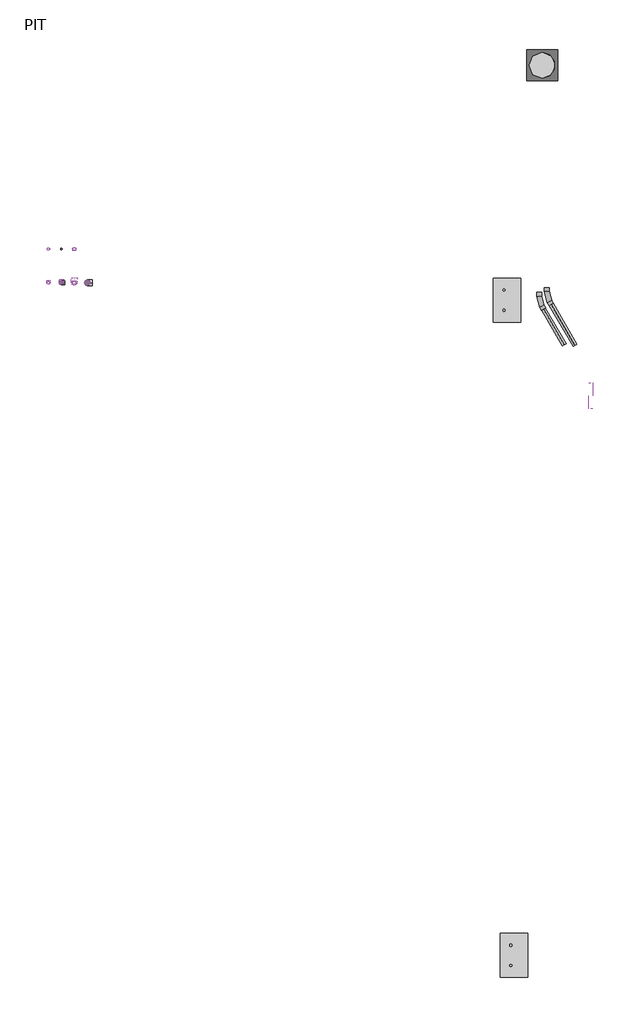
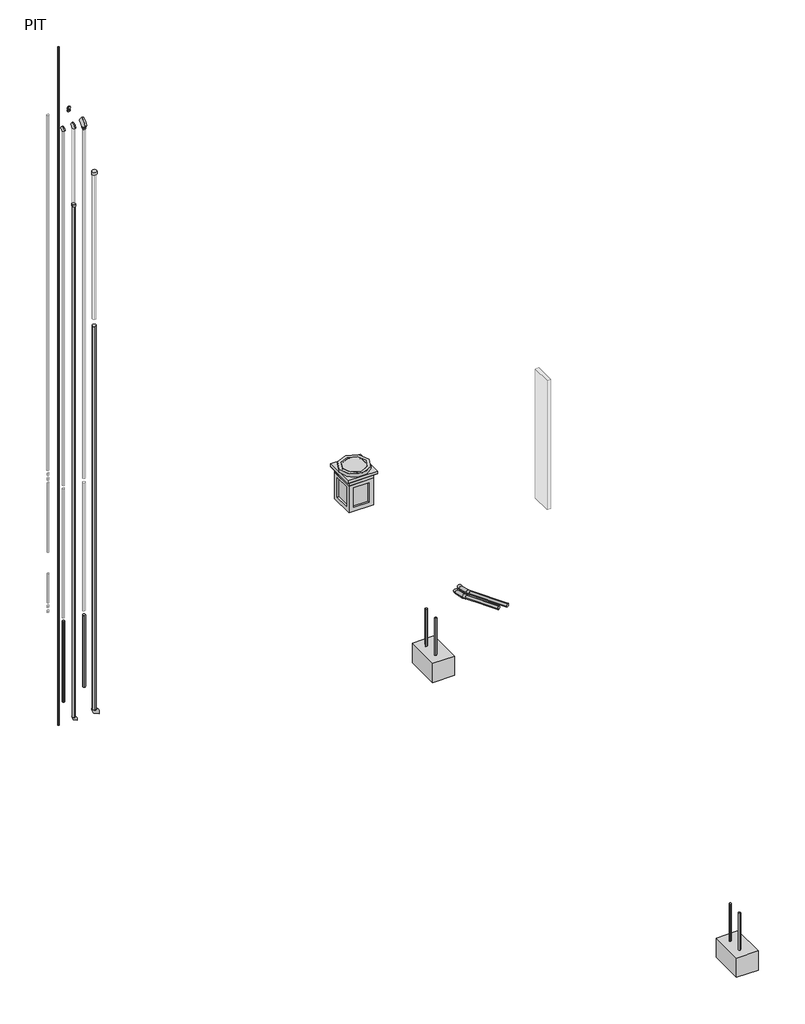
# One storey: 22 pipe segments, 10 pipe fittings, 3 cable carrier segments, 2 cable carrier fittings, 2 proxies, 2 sanitary terminals, 1 electric distribution board.
"""IFC4 building model written with IfcOpenShell, lengths in millimetres."""

from ifc_helpers import new_model, si_unit, point, frame, frame_2d, origin, place, context, project, spatial, polyline, circle_curve, trimmed, segment, composite_curve, outline, extrude, transform, mapped, element, save
from components import specialty_equipment_6cca576a, cable_carrier_fitting_9bf16a55, h1_9_0894fb5f, common_279bc6e8, common_9c93153a, common_a5969855, common_969e8d41, common_30069bef, common_d0e33cdb, common_a570e3cd, common_2df6cfe4, sanitary_terminal_5eec8a21

model = new_model("IFC4")

# Units and contexts
model_context = context("Model", 3, world=origin())
ifc_project = project(units=[si_unit("LENGTHUNIT", "METRE", prefix="MILLI")], contexts=[model_context])

# Site, building, storey
site = spatial("IfcSite", under=ifc_project)
building = spatial("IfcBuilding", under=site)
storey = spatial("IfcBuildingStorey", under=building, Name="PIT", Elevation=-1750.0)

# Proxies
placement = place(None, origin())
specialty_equipment_shape = specialty_equipment_6cca576a(model_context)
element("IfcBuildingElementProxy", 1, Name="サービススペース(衛生) : サービススペース(衛生)", ObjectType="サービススペース(衛生) : サービススペース(衛生)", at=placement, inside=storey, context=model_context, shape_type="MappedRepresentation", body=[
    mapped(specialty_equipment_shape, transform((26212.3166726, 5306.0, -2610.0), x_axis=(1.0, 0.0, 0.0), y_axis=(0.0, 1.0, 0.0), z_axis=(0.0, 0.0, 1.0))),
])
element("IfcBuildingElementProxy", 2, Name="サービススペース(衛生) : サービススペース(衛生)", ObjectType="サービススペース(衛生) : サービススペース(衛生)", at=placement, inside=storey, context=model_context, shape_type="MappedRepresentation", body=[
    mapped(specialty_equipment_shape, transform((26052.3166726, 20466.0, -2610.0), x_axis=(1.0, 0.0, 0.0), y_axis=(0.0, 1.0, 0.0), z_axis=(0.0, 0.0, 1.0))),
])

# Cable carrier fittings
cable_carrier_fitting_shape = cable_carrier_fitting_9bf16a55(model_context)
element("IfcCableCarrierFitting", 3, ObjectType="M_電線管エルボ - プレーン エンド - PVC : 標準", at=placement, inside=storey, context=model_context, shape_type="MappedRepresentation", body=[
    mapped(cable_carrier_fitting_shape, transform((26794.6857911, 20437.7492309, -850.0), x_axis=(0.0, -1.0, 0.0), y_axis=(1.0, 0.0, 0.0), z_axis=(0.0, 0.0, 1.0))),
])
element("IfcCableCarrierFitting", 4, ObjectType="M_電線管エルボ - プレーン エンド - PVC : 標準", at=placement, inside=storey, context=model_context, shape_type="MappedRepresentation", body=[
    mapped(cable_carrier_fitting_shape, transform((26974.6857911, 20545.5953278, -850.0), x_axis=(0.0, -1.0, 0.0), y_axis=(1.0, 0.0, 0.0), z_axis=(0.0, 0.0, 1.0))),
])

# Cable carrier segments
element("IfcCableCarrierSegment", 5, ObjectType="011_厚鋼電線管_G_強電", at=placement, inside=storey, context=model_context, shape_type="SweptSolid", body=[
    extrude(outline(composite_curve([segment(trimmed(circle_curve(frame_2d((0.0, -50.0)), 50.0), [point((-50.0, -50.0))], [point((0.0, 0.0))], False, "CARTESIAN"), True, "CONTINUOUS"), segment(trimmed(circle_curve(frame_2d((0.0, -50.0)), 50.0), [point((0.0, 0.0))], [point((49.9999999, -50.0))], False, "CARTESIAN"), True, "CONTINUOUS"), segment(trimmed(circle_curve(frame_2d((0.0, -50.0)), 50.0), [point((49.9999999, -50.0))], [point((0.0, -100.0))], False, "CARTESIAN"), True, "CONTINUOUS"), segment(trimmed(circle_curve(frame_2d((0.0, -50.0)), 50.0), [point((0.0, -100.0))], [point((-50.0, -50.0))], False, "CARTESIAN"), True, "CONTINUOUS")], self_intersect=False)), frame((27374.6857911, 19433.1597625, -900.0), z_axis=(-0.5000000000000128, 0.8660254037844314, 0.0), x_axis=(0.8660254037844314, 0.5000000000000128, 0.0)), (0.0, 0.0, 1.0), 953.4414247),
])
element("IfcCableCarrierSegment", 6, ObjectType="011_厚鋼電線管_G_強電", at=placement, inside=storey, context=model_context, shape_type="SweptSolid", body=[
    extrude(outline(composite_curve([segment(trimmed(circle_curve(frame_2d((0.0, -50.0)), 50.0), [point((-50.0, -50.0))], [point((0.0, 0.0))], False, "CARTESIAN"), True, "CONTINUOUS"), segment(trimmed(circle_curve(frame_2d((0.0, -50.0)), 50.0), [point((0.0, 0.0))], [point((49.9999999, -50.0))], False, "CARTESIAN"), True, "CONTINUOUS"), segment(trimmed(circle_curve(frame_2d((0.0, -50.0)), 50.0), [point((49.9999999, -50.0))], [point((0.0, -100.0))], False, "CARTESIAN"), True, "CONTINUOUS"), segment(trimmed(circle_curve(frame_2d((0.0, -50.0)), 50.0), [point((0.0, -100.0))], [point((-50.0, -50.0))], False, "CARTESIAN"), True, "CONTINUOUS")], self_intersect=False)), frame((27624.6857911, 19419.7623029, -900.0), z_axis=(-0.5000000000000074, 0.8660254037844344, 0.0), x_axis=(0.8660254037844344, 0.5000000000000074, 0.0)), (0.0, 0.0, 1.0), 1093.4414247),
])
element("IfcCableCarrierSegment", 7, ObjectType="03 強電_低圧", at=placement, inside=storey, context=model_context, shape_type="SweptSolid", body=[
    extrude(outline(polyline([(27942.207615, 17951.7963563), (27942.207615, 18551.7963563), (28042.207615, 18551.7963563), (28042.207615, 17951.7963563), (27942.207615, 17951.7963563)])), frame((0.0, 0.0, 2880.0), z_axis=(0.0, 0.0, 1.0), x_axis=(1.0, 0.0, 0.0)), (0.0, 0.0, 1.0), 4000.0),
])

# Electric distribution board
h1_9_shape = h1_9_0894fb5f(model_context)
element("IfcElectricDistributionBoard", 8, ObjectType="21904_ハンドホール H1 : H1-9", at=placement, inside=storey, context=model_context, shape_type="MappedRepresentation", body=[
    mapped(h1_9_shape, transform((26864.6857911, 25900.0, -180.0), x_axis=(1.0, 0.0, 0.0), y_axis=(0.0, 1.0, 0.0), z_axis=(0.0, 0.0, 1.0))),
])

# Pipe fittings
common_shape = common_279bc6e8(model_context)
element("IfcPipeFitting", 9, ObjectType="011_エルボ : Common", at=placement, inside=storey, context=model_context, shape_type="MappedRepresentation", body=[
    mapped(common_shape, transform((15740.0, 20870.0, -1100.0), x_axis=(0.0, 0.0, -1.0), y_axis=(1.0, 0.0, 0.0), z_axis=(0.0, -1.0, 0.0))),
])
element("IfcPipeFitting", 10, ObjectType="011_エルボ : Common", at=placement, inside=storey, context=model_context, shape_type="MappedRepresentation", body=[
    mapped(common_shape, transform((15740.0, 20870.0, 17300.0), x_axis=(0.0, 0.0, 1.0), y_axis=(0.0, 1.0, 0.0), z_axis=(-1.0, 0.0, 0.0))),
])
common_2_shape = common_9c93153a(model_context)
element("IfcPipeFitting", 11, ObjectType="011_エルボ : Common", at=placement, inside=storey, context=model_context, shape_type="MappedRepresentation", body=[
    mapped(common_2_shape, transform((15440.0, 20870.0, 17300.0), x_axis=(0.0, 0.0, 1.0), y_axis=(0.0, 1.0, 0.0), z_axis=(-1.0, 0.0, 0.0))),
])
common_3_shape = common_a5969855(model_context)
element("IfcPipeFitting", 12, ObjectType="011_エルボ : Common", at=placement, inside=storey, context=model_context, shape_type="MappedRepresentation", body=[
    mapped(common_3_shape, transform((16340.0, 20870.0, -1100.0), x_axis=(0.0, 0.0, -1.0), y_axis=(1.0, 0.0, 0.0), z_axis=(0.0, -1.0, 0.0))),
])
element("IfcPipeFitting", 13, ObjectType="011_エルボ : Common", at=placement, inside=storey, context=model_context, shape_type="MappedRepresentation", body=[
    mapped(common_3_shape, transform((16040.0, 20870.0, 17300.0), x_axis=(0.0, 0.0, 1.0), y_axis=(0.0, 1.0, 0.0), z_axis=(-1.0, 0.0, 0.0))),
])
common_4_shape = common_969e8d41(model_context)
element("IfcPipeFitting", 14, ObjectType="011_エルボ : Common", at=placement, inside=storey, context=model_context, shape_type="MappedRepresentation", body=[
    mapped(common_4_shape, transform((16040.0, 21650.0, 17300.0), x_axis=(0.0, 1.0, 0.0), y_axis=(0.0, 0.0, -1.0), z_axis=(-1.0, 0.0, 0.0))),
])
common_5_shape = common_30069bef(model_context)
element("IfcPipeFitting", 15, ObjectType="051_ソケット : Common", at=placement, inside=storey, context=model_context, shape_type="MappedRepresentation", body=[
    mapped(common_5_shape, transform((16340.0, 20870.0, 15629.2582106), x_axis=(0.0, 0.0, 1.0), y_axis=(1.0, 0.0, 0.0), z_axis=(0.0, 1.0, 0.0))),
])
common_6_shape = common_d0e33cdb(model_context)
element("IfcPipeFitting", 16, ObjectType="051_ソケット : Common", at=placement, inside=storey, context=model_context, shape_type="MappedRepresentation", body=[
    mapped(common_6_shape, transform((15740.0, 20870.0, 14836.7582106), x_axis=(0.0, 0.0, 1.0), y_axis=(1.0, 0.0, 0.0), z_axis=(0.0, 1.0, 0.0))),
])
common_7_shape = common_a570e3cd(model_context)
element("IfcPipeFitting", 17, ObjectType="041_レジューサ : Common", at=placement, inside=storey, context=model_context, shape_type="MappedRepresentation", body=[
    mapped(common_7_shape, transform((16040.0, 20870.0, 17090.0), x_axis=(0.0, 0.0, 1.0), y_axis=(1.0, 0.0, 0.0), z_axis=(0.0, 1.0, 0.0))),
])
common_8_shape = common_2df6cfe4(model_context)
element("IfcPipeFitting", 18, ObjectType="041_レジューサ : Common", at=placement, inside=storey, context=model_context, shape_type="MappedRepresentation", body=[
    mapped(common_8_shape, transform((16040.0, 21650.0, 17251.0), x_axis=(0.0, 0.0, -1.0), y_axis=(-1.0, 0.0, 0.0), z_axis=(0.0, 1.0, 0.0))),
])

# Pipe segments
element("IfcPipeSegment", 19, ObjectType="00_排水", at=placement, inside=storey, context=model_context, shape_type="SweptSolid", body=[
    extrude(outline(composite_curve([segment(trimmed(circle_curve(frame_2d((16040.0, 20870.0)), 38.15), [point((16001.85, 20870.0))], [point((16040.0, 20908.15))], False, "CARTESIAN"), True, "CONTINUOUS"), segment(trimmed(circle_curve(frame_2d((16040.0, 20870.0)), 38.15), [point((16040.0, 20908.15))], [point((16078.15, 20870.0))], False, "CARTESIAN"), True, "CONTINUOUS"), segment(trimmed(circle_curve(frame_2d((16040.0, 20870.0)), 38.15), [point((16078.15, 20870.0))], [point((16040.0, 20831.85))], False, "CARTESIAN"), True, "CONTINUOUS"), segment(trimmed(circle_curve(frame_2d((16040.0, 20870.0)), 38.15), [point((16040.0, 20831.85))], [point((16001.85, 20870.0))], False, "CARTESIAN"), True, "CONTINUOUS")], self_intersect=False)), frame((0.0, 0.0, 6269.0), z_axis=(0.0, 0.0, 1.0), x_axis=(1.0, 0.0, 0.0)), (0.0, 0.0, 1.0), 10821.0),
])
element("IfcPipeSegment", 20, ObjectType="00_排水", at=placement, inside=storey, context=model_context, shape_type="SweptSolid", body=[
    extrude(outline(composite_curve([segment(trimmed(circle_curve(frame_2d((15740.0, 20870.0)), 38.15), [point((15701.85, 20870.0))], [point((15740.0, 20908.15))], False, "CARTESIAN"), True, "CONTINUOUS"), segment(trimmed(circle_curve(frame_2d((15740.0, 20870.0)), 38.15), [point((15740.0, 20908.15))], [point((15778.15, 20870.0))], False, "CARTESIAN"), True, "CONTINUOUS"), segment(trimmed(circle_curve(frame_2d((15740.0, 20870.0)), 38.15), [point((15778.15, 20870.0))], [point((15740.0, 20831.85))], False, "CARTESIAN"), True, "CONTINUOUS"), segment(trimmed(circle_curve(frame_2d((15740.0, 20870.0)), 38.15), [point((15740.0, 20831.85))], [point((15701.85, 20870.0))], False, "CARTESIAN"), True, "CONTINUOUS")], self_intersect=False)), frame((0.0, 0.0, 14871.7582106), z_axis=(0.0, 0.0, 1.0), x_axis=(1.0, 0.0, 0.0)), (0.0, 0.0, 1.0), 2351.2417894),
])
element("IfcPipeSegment", 21, ObjectType="00_排水", at=placement, inside=storey, context=model_context, shape_type="SweptSolid", body=[
    extrude(outline(composite_curve([segment(trimmed(circle_curve(frame_2d((15440.0, 20870.0)), 30.25), [point((15409.75, 20870.0))], [point((15440.0, 20900.25))], False, "CARTESIAN"), True, "CONTINUOUS"), segment(trimmed(circle_curve(frame_2d((15440.0, 20870.0)), 30.25), [point((15440.0, 20900.25))], [point((15470.25, 20870.0))], False, "CARTESIAN"), True, "CONTINUOUS"), segment(trimmed(circle_curve(frame_2d((15440.0, 20870.0)), 30.25), [point((15470.25, 20870.0))], [point((15440.0, 20839.75))], False, "CARTESIAN"), True, "CONTINUOUS"), segment(trimmed(circle_curve(frame_2d((15440.0, 20870.0)), 30.25), [point((15440.0, 20839.75))], [point((15409.75, 20870.0))], False, "CARTESIAN"), True, "CONTINUOUS")], self_intersect=False)), frame((0.0, 0.0, 6252.0), z_axis=(0.0, 0.0, 1.0), x_axis=(1.0, 0.0, 0.0)), (0.0, 0.0, 1.0), 10990.0),
])
element("IfcPipeSegment", 22, ObjectType="00_供給", at=placement, inside=storey, context=model_context, shape_type="SweptSolid", body=[
    extrude(outline(composite_curve([segment(trimmed(circle_curve(frame_2d((15740.0, 21650.0)), 17.0), [point((15723.0, 21650.0))], [point((15740.0, 21667.0))], False, "CARTESIAN"), True, "CONTINUOUS"), segment(trimmed(circle_curve(frame_2d((15740.0, 21650.0)), 17.0), [point((15740.0, 21667.0))], [point((15757.0, 21650.0))], False, "CARTESIAN"), True, "CONTINUOUS"), segment(trimmed(circle_curve(frame_2d((15740.0, 21650.0)), 17.0), [point((15757.0, 21650.0))], [point((15740.0, 21633.0))], False, "CARTESIAN"), True, "CONTINUOUS"), segment(trimmed(circle_curve(frame_2d((15740.0, 21650.0)), 17.0), [point((15740.0, 21633.0))], [point((15723.0, 21650.0))], False, "CARTESIAN"), True, "CONTINUOUS")], self_intersect=False)), frame((0.0, 0.0, -1750.0), z_axis=(0.0, 0.0, 1.0), x_axis=(1.0, 0.0, 0.0)), (0.0, 0.0, 1.0), 21000.0),
])
element("IfcPipeSegment", 23, ObjectType="00_排水", at=placement, inside=storey, context=model_context, shape_type="SweptSolid", body=[
    extrude(outline(composite_curve([segment(trimmed(circle_curve(frame_2d((16040.0, 20870.0)), 38.15), [point((16001.85, 20870.0))], [point((16040.0, 20908.15))], False, "CARTESIAN"), True, "CONTINUOUS"), segment(trimmed(circle_curve(frame_2d((16040.0, 20870.0)), 38.15), [point((16040.0, 20908.15))], [point((16078.15, 20870.0))], False, "CARTESIAN"), True, "CONTINUOUS"), segment(trimmed(circle_curve(frame_2d((16040.0, 20870.0)), 38.15), [point((16078.15, 20870.0))], [point((16040.0, 20831.85))], False, "CARTESIAN"), True, "CONTINUOUS"), segment(trimmed(circle_curve(frame_2d((16040.0, 20870.0)), 38.15), [point((16040.0, 20831.85))], [point((16001.85, 20870.0))], False, "CARTESIAN"), True, "CONTINUOUS")], self_intersect=False)), frame((0.0, 0.0, -190.0), z_axis=(0.0, 0.0, 1.0), x_axis=(1.0, 0.0, 0.0)), (0.0, 0.0, 1.0), 2221.0),
])
element("IfcPipeSegment", 24, ObjectType="00_排水", at=placement, inside=storey, context=model_context, shape_type="SweptSolid", body=[
    extrude(outline(composite_curve([segment(trimmed(circle_curve(frame_2d((15440.0, 20870.0)), 30.25), [point((15409.75, 20870.0))], [point((15440.0, 20900.25))], False, "CARTESIAN"), True, "CONTINUOUS"), segment(trimmed(circle_curve(frame_2d((15440.0, 20870.0)), 30.25), [point((15440.0, 20900.25))], [point((15470.25, 20870.0))], False, "CARTESIAN"), True, "CONTINUOUS"), segment(trimmed(circle_curve(frame_2d((15440.0, 20870.0)), 30.25), [point((15470.25, 20870.0))], [point((15440.0, 20839.75))], False, "CARTESIAN"), True, "CONTINUOUS"), segment(trimmed(circle_curve(frame_2d((15440.0, 20870.0)), 30.25), [point((15440.0, 20839.75))], [point((15409.75, 20870.0))], False, "CARTESIAN"), True, "CONTINUOUS")], self_intersect=False)), frame((0.0, 0.0, -450.0), z_axis=(0.0, 0.0, 1.0), x_axis=(1.0, 0.0, 0.0)), (0.0, 0.0, 1.0), 2498.0),
])
element("IfcPipeSegment", 25, ObjectType="00_供給", at=placement, inside=storey, context=model_context, shape_type="SweptSolid", body=[
    extrude(outline(composite_curve([segment(trimmed(circle_curve(frame_2d((15440.0, 21650.0)), 30.25), [point((15409.75, 21650.0))], [point((15440.0, 21680.25))], False, "CARTESIAN"), True, "CONTINUOUS"), segment(trimmed(circle_curve(frame_2d((15440.0, 21650.0)), 30.25), [point((15440.0, 21680.25))], [point((15470.25, 21650.0))], False, "CARTESIAN"), True, "CONTINUOUS"), segment(trimmed(circle_curve(frame_2d((15440.0, 21650.0)), 30.25), [point((15470.25, 21650.0))], [point((15440.0, 21619.75))], False, "CARTESIAN"), True, "CONTINUOUS"), segment(trimmed(circle_curve(frame_2d((15440.0, 21650.0)), 30.25), [point((15440.0, 21619.75))], [point((15409.75, 21650.0))], False, "CARTESIAN"), True, "CONTINUOUS")], self_intersect=False)), frame((0.0, 0.0, 6098.9), z_axis=(0.0, 0.0, 1.0), x_axis=(1.0, 0.0, 0.0)), (0.0, 0.0, 1.0), 52.1),
])
element("IfcPipeSegment", 26, ObjectType="00_供給", at=placement, inside=storey, context=model_context, shape_type="SweptSolid", body=[
    extrude(outline(composite_curve([segment(trimmed(circle_curve(frame_2d((15440.0, 21650.0)), 30.25), [point((15409.75, 21650.0))], [point((15440.0, 21680.25))], False, "CARTESIAN"), True, "CONTINUOUS"), segment(trimmed(circle_curve(frame_2d((15440.0, 21650.0)), 30.25), [point((15440.0, 21680.25))], [point((15470.25, 21650.0))], False, "CARTESIAN"), True, "CONTINUOUS"), segment(trimmed(circle_curve(frame_2d((15440.0, 21650.0)), 30.25), [point((15470.25, 21650.0))], [point((15440.0, 21619.75))], False, "CARTESIAN"), True, "CONTINUOUS"), segment(trimmed(circle_curve(frame_2d((15440.0, 21650.0)), 30.25), [point((15440.0, 21619.75))], [point((15409.75, 21650.0))], False, "CARTESIAN"), True, "CONTINUOUS")], self_intersect=False)), frame((0.0, 0.0, 5943.8), z_axis=(0.0, 0.0, 1.0), x_axis=(1.0, 0.0, 0.0)), (0.0, 0.0, 1.0), 57.2),
])
element("IfcPipeSegment", 27, ObjectType="00_供給", at=placement, inside=storey, context=model_context, shape_type="SweptSolid", body=[
    extrude(outline(composite_curve([segment(trimmed(circle_curve(frame_2d((15440.0, 21650.0)), 30.25), [point((15470.25, 21650.0))], [point((15440.0, 21619.75))], False, "CARTESIAN"), True, "CONTINUOUS"), segment(trimmed(circle_curve(frame_2d((15440.0, 21650.0)), 30.25), [point((15440.0, 21619.75))], [point((15409.75, 21650.0))], False, "CARTESIAN"), True, "CONTINUOUS"), segment(trimmed(circle_curve(frame_2d((15440.0, 21650.0)), 30.25), [point((15409.75, 21650.0))], [point((15440.0, 21680.25))], False, "CARTESIAN"), True, "CONTINUOUS"), segment(trimmed(circle_curve(frame_2d((15440.0, 21650.0)), 30.25), [point((15440.0, 21680.25))], [point((15470.25, 21650.0))], False, "CARTESIAN"), True, "CONTINUOUS")], self_intersect=False)), frame((0.0, 0.0, 2148.9), z_axis=(0.0, 0.0, 1.0), x_axis=(1.0, 0.0, 0.0)), (0.0, 0.0, 1.0), 891.0),
])
element("IfcPipeSegment", 28, ObjectType="00_排水", at=placement, inside=storey, context=model_context, shape_type="SweptSolid", body=[
    extrude(outline(composite_curve([segment(trimmed(circle_curve(frame_2d((16040.0, 20870.0)), 38.15), [point((16001.85, 20870.0))], [point((16040.0, 20908.15))], False, "CARTESIAN"), True, "CONTINUOUS"), segment(trimmed(circle_curve(frame_2d((16040.0, 20870.0)), 38.15), [point((16040.0, 20908.15))], [point((16078.15, 20870.0))], False, "CARTESIAN"), True, "CONTINUOUS"), segment(trimmed(circle_curve(frame_2d((16040.0, 20870.0)), 38.15), [point((16078.15, 20870.0))], [point((16040.0, 20831.85))], False, "CARTESIAN"), True, "CONTINUOUS"), segment(trimmed(circle_curve(frame_2d((16040.0, 20870.0)), 38.15), [point((16040.0, 20831.85))], [point((16001.85, 20870.0))], False, "CARTESIAN"), True, "CONTINUOUS")], self_intersect=False)), frame((0.0, 0.0, 2169.0), z_axis=(0.0, 0.0, 1.0), x_axis=(1.0, 0.0, 0.0)), (0.0, 0.0, 1.0), 3962.0),
])
element("IfcPipeSegment", 29, ObjectType="00_排水", at=placement, inside=storey, context=model_context, shape_type="SweptSolid", body=[
    extrude(outline(composite_curve([segment(trimmed(circle_curve(frame_2d((15440.0, 20870.0)), 30.25), [point((15409.75, 20870.0))], [point((15440.0, 20900.25))], False, "CARTESIAN"), True, "CONTINUOUS"), segment(trimmed(circle_curve(frame_2d((15440.0, 20870.0)), 30.25), [point((15440.0, 20900.25))], [point((15470.25, 20870.0))], False, "CARTESIAN"), True, "CONTINUOUS"), segment(trimmed(circle_curve(frame_2d((15440.0, 20870.0)), 30.25), [point((15470.25, 20870.0))], [point((15440.0, 20839.75))], False, "CARTESIAN"), True, "CONTINUOUS"), segment(trimmed(circle_curve(frame_2d((15440.0, 20870.0)), 30.25), [point((15440.0, 20839.75))], [point((15409.75, 20870.0))], False, "CARTESIAN"), True, "CONTINUOUS")], self_intersect=False)), frame((0.0, 0.0, 2152.0), z_axis=(0.0, 0.0, 1.0), x_axis=(1.0, 0.0, 0.0)), (0.0, 0.0, 1.0), 3996.0),
])
element("IfcPipeSegment", 30, ObjectType="00_供給", at=placement, inside=storey, context=model_context, shape_type="SweptSolid", body=[
    extrude(outline(composite_curve([segment(trimmed(circle_curve(frame_2d((15440.0, 21650.0)), 30.25), [point((15409.75, 21650.0))], [point((15440.0, 21680.25))], False, "CARTESIAN"), True, "CONTINUOUS"), segment(trimmed(circle_curve(frame_2d((15440.0, 21650.0)), 30.25), [point((15440.0, 21680.25))], [point((15470.25, 21650.0))], False, "CARTESIAN"), True, "CONTINUOUS"), segment(trimmed(circle_curve(frame_2d((15440.0, 21650.0)), 30.25), [point((15470.25, 21650.0))], [point((15440.0, 21619.75))], False, "CARTESIAN"), True, "CONTINUOUS"), segment(trimmed(circle_curve(frame_2d((15440.0, 21650.0)), 30.25), [point((15440.0, 21619.75))], [point((15409.75, 21650.0))], False, "CARTESIAN"), True, "CONTINUOUS")], self_intersect=False)), frame((0.0, 0.0, 1998.9), z_axis=(0.0, 0.0, 1.0), x_axis=(1.0, 0.0, 0.0)), (0.0, 0.0, 1.0), 52.1),
])
element("IfcPipeSegment", 31, ObjectType="00_供給", at=placement, inside=storey, context=model_context, shape_type="SweptSolid", body=[
    extrude(outline(composite_curve([segment(trimmed(circle_curve(frame_2d((15440.0, 21650.0)), 30.25), [point((15409.75, 21650.0))], [point((15440.0, 21680.25))], False, "CARTESIAN"), True, "CONTINUOUS"), segment(trimmed(circle_curve(frame_2d((15440.0, 21650.0)), 30.25), [point((15440.0, 21680.25))], [point((15470.25, 21650.0))], False, "CARTESIAN"), True, "CONTINUOUS"), segment(trimmed(circle_curve(frame_2d((15440.0, 21650.0)), 30.25), [point((15470.25, 21650.0))], [point((15440.0, 21619.75))], False, "CARTESIAN"), True, "CONTINUOUS"), segment(trimmed(circle_curve(frame_2d((15440.0, 21650.0)), 30.25), [point((15440.0, 21619.75))], [point((15409.75, 21650.0))], False, "CARTESIAN"), True, "CONTINUOUS")], self_intersect=False)), frame((0.0, 0.0, 1843.8), z_axis=(0.0, 0.0, 1.0), x_axis=(1.0, 0.0, 0.0)), (0.0, 0.0, 1.0), 57.2),
])
element("IfcPipeSegment", 32, ObjectType="00_供給", at=placement, inside=storey, context=model_context, shape_type="SweptSolid", body=[
    extrude(outline(composite_curve([segment(trimmed(circle_curve(frame_2d((15440.0, 21650.0)), 30.25), [point((15409.75, 21650.0))], [point((15440.0, 21680.25))], False, "CARTESIAN"), True, "CONTINUOUS"), segment(trimmed(circle_curve(frame_2d((15440.0, 21650.0)), 30.25), [point((15440.0, 21680.25))], [point((15470.25, 21650.0))], False, "CARTESIAN"), True, "CONTINUOUS"), segment(trimmed(circle_curve(frame_2d((15440.0, 21650.0)), 30.25), [point((15470.25, 21650.0))], [point((15440.0, 21619.75))], False, "CARTESIAN"), True, "CONTINUOUS"), segment(trimmed(circle_curve(frame_2d((15440.0, 21650.0)), 30.25), [point((15440.0, 21619.75))], [point((15409.75, 21650.0))], False, "CARTESIAN"), True, "CONTINUOUS")], self_intersect=False)), frame((0.0, 0.0, 6248.9), z_axis=(0.0, 0.0, 1.0), x_axis=(1.0, 0.0, 0.0)), (0.0, 0.0, 1.0), 11000.65),
])
element("IfcPipeSegment", 33, ObjectType="00_排水", at=placement, inside=storey, context=model_context, shape_type="SweptSolid", body=[
    extrude(outline(composite_curve([segment(trimmed(circle_curve(frame_2d((16340.0, 20870.0)), 57.15), [point((16397.15, 20870.0))], [point((16340.0, 20812.85))], False, "CARTESIAN"), True, "CONTINUOUS"), segment(trimmed(circle_curve(frame_2d((16340.0, 20870.0)), 57.15), [point((16340.0, 20812.85))], [point((16282.85, 20870.0))], False, "CARTESIAN"), True, "CONTINUOUS"), segment(trimmed(circle_curve(frame_2d((16340.0, 20870.0)), 57.15), [point((16282.85, 20870.0))], [point((16340.0, 20927.15))], False, "CARTESIAN"), True, "CONTINUOUS"), segment(trimmed(circle_curve(frame_2d((16340.0, 20870.0)), 57.15), [point((16340.0, 20927.15))], [point((16397.15, 20870.0))], False, "CARTESIAN"), True, "CONTINUOUS")], self_intersect=False)), frame((0.0, 0.0, -988.0), z_axis=(0.0, 0.0, 1.0), x_axis=(1.0, 0.0, 0.0)), (0.0, 0.0, 1.0), 11878.0),
])
element("IfcPipeSegment", 34, ObjectType="00_排水", at=placement, inside=storey, context=model_context, shape_type="SweptSolid", body=[
    extrude(outline(composite_curve([segment(trimmed(circle_curve(frame_2d((16340.0, 20870.0)), 57.15), [point((16282.85, 20870.0))], [point((16340.0, 20927.15))], False, "CARTESIAN"), True, "CONTINUOUS"), segment(trimmed(circle_curve(frame_2d((16340.0, 20870.0)), 57.15), [point((16340.0, 20927.15))], [point((16397.15, 20870.0))], False, "CARTESIAN"), True, "CONTINUOUS"), segment(trimmed(circle_curve(frame_2d((16340.0, 20870.0)), 57.15), [point((16397.15, 20870.0))], [point((16340.0, 20812.85))], False, "CARTESIAN"), True, "CONTINUOUS"), segment(trimmed(circle_curve(frame_2d((16340.0, 20870.0)), 57.15), [point((16340.0, 20812.85))], [point((16282.85, 20870.0))], False, "CARTESIAN"), True, "CONTINUOUS")], self_intersect=False)), frame((0.0, 0.0, 11110.0), z_axis=(0.0, 0.0, 1.0), x_axis=(1.0, 0.0, 0.0)), (0.0, 0.0, 1.0), 4476.7582106),
])
element("IfcPipeSegment", 35, ObjectType="00_排水", at=placement, inside=storey, context=model_context, shape_type="SweptSolid", body=[
    extrude(outline(composite_curve([segment(trimmed(circle_curve(frame_2d((15740.0, 20870.0)), 38.15), [point((15778.15, 20870.0))], [point((15740.0, 20831.85))], False, "CARTESIAN"), True, "CONTINUOUS"), segment(trimmed(circle_curve(frame_2d((15740.0, 20870.0)), 38.15), [point((15740.0, 20831.85))], [point((15701.85, 20870.0))], False, "CARTESIAN"), True, "CONTINUOUS"), segment(trimmed(circle_curve(frame_2d((15740.0, 20870.0)), 38.15), [point((15701.85, 20870.0))], [point((15740.0, 20908.15))], False, "CARTESIAN"), True, "CONTINUOUS"), segment(trimmed(circle_curve(frame_2d((15740.0, 20870.0)), 38.15), [point((15740.0, 20908.15))], [point((15778.15, 20870.0))], False, "CARTESIAN"), True, "CONTINUOUS")], self_intersect=False)), frame((0.0, 0.0, -1023.0), z_axis=(0.0, 0.0, 1.0), x_axis=(1.0, 0.0, 0.0)), (0.0, 0.0, 1.0), 15824.7582106),
])
element("IfcPipeSegment", 36, ObjectType="00_供給", at=placement, inside=storey, context=model_context, shape_type="SweptSolid", body=[
    extrude(outline(composite_curve([segment(trimmed(circle_curve(frame_2d((15440.0, 21650.0)), 30.25), [point((15409.75, 21650.0))], [point((15440.0, 21680.25))], False, "CARTESIAN"), True, "CONTINUOUS"), segment(trimmed(circle_curve(frame_2d((15440.0, 21650.0)), 30.25), [point((15440.0, 21680.25))], [point((15470.25, 21650.0))], False, "CARTESIAN"), True, "CONTINUOUS"), segment(trimmed(circle_curve(frame_2d((15440.0, 21650.0)), 30.25), [point((15470.25, 21650.0))], [point((15440.0, 21619.75))], False, "CARTESIAN"), True, "CONTINUOUS"), segment(trimmed(circle_curve(frame_2d((15440.0, 21650.0)), 30.25), [point((15440.0, 21619.75))], [point((15409.75, 21650.0))], False, "CARTESIAN"), True, "CONTINUOUS")], self_intersect=False)), frame((0.0, 0.0, 3710.1), z_axis=(0.0, 0.0, 1.0), x_axis=(1.0, 0.0, 0.0)), (0.0, 0.0, 1.0), 2146.0),
])
element("IfcPipeSegment", 37, ObjectType="00_排水", at=placement, inside=storey, context=model_context, shape_type="SweptSolid", body=[
    extrude(outline(composite_curve([segment(trimmed(circle_curve(frame_2d((26141.8166726, 5540.0)), 30.25), [point((26111.5666726, 5540.0))], [point((26141.8166726, 5570.25))], False, "CARTESIAN"), True, "CONTINUOUS"), segment(trimmed(circle_curve(frame_2d((26141.8166726, 5540.0)), 30.25), [point((26141.8166726, 5570.25))], [point((26172.0666726, 5540.0))], False, "CARTESIAN"), True, "CONTINUOUS"), segment(trimmed(circle_curve(frame_2d((26141.8166726, 5540.0)), 30.25), [point((26172.0666726, 5540.0))], [point((26141.8166726, 5509.75))], False, "CARTESIAN"), True, "CONTINUOUS"), segment(trimmed(circle_curve(frame_2d((26141.8166726, 5540.0)), 30.25), [point((26141.8166726, 5509.75))], [point((26111.5666726, 5540.0))], False, "CARTESIAN"), True, "CONTINUOUS")], self_intersect=False)), frame((0.0, 0.0, -2805.0), z_axis=(0.0, 0.0, 1.0), x_axis=(1.0, 0.0, 0.0)), (0.0, 0.0, 1.0), 1647.0),
])
element("IfcPipeSegment", 38, ObjectType="00_排水", at=placement, inside=storey, context=model_context, shape_type="SweptSolid", body=[
    extrude(outline(composite_curve([segment(trimmed(circle_curve(frame_2d((26141.8166726, 5072.0)), 30.25), [point((26172.0666726, 5072.0))], [point((26141.8166726, 5041.75))], False, "CARTESIAN"), True, "CONTINUOUS"), segment(trimmed(circle_curve(frame_2d((26141.8166726, 5072.0)), 30.25), [point((26141.8166726, 5041.75))], [point((26111.5666726, 5072.0))], False, "CARTESIAN"), True, "CONTINUOUS"), segment(trimmed(circle_curve(frame_2d((26141.8166726, 5072.0)), 30.25), [point((26111.5666726, 5072.0))], [point((26141.8166726, 5102.25))], False, "CARTESIAN"), True, "CONTINUOUS"), segment(trimmed(circle_curve(frame_2d((26141.8166726, 5072.0)), 30.25), [point((26141.8166726, 5102.25))], [point((26172.0666726, 5072.0))], False, "CARTESIAN"), True, "CONTINUOUS")], self_intersect=False)), frame((0.0, 0.0, -2805.0), z_axis=(0.0, 0.0, 1.0), x_axis=(1.0, 0.0, 0.0)), (0.0, 0.0, 1.0), 1647.0),
])
element("IfcPipeSegment", 39, ObjectType="00_排水", at=placement, inside=storey, context=model_context, shape_type="SweptSolid", body=[
    extrude(outline(composite_curve([segment(trimmed(circle_curve(frame_2d((25981.8166726, 20700.0)), 30.25), [point((25951.5666726, 20700.0))], [point((25981.8166726, 20730.25))], False, "CARTESIAN"), True, "CONTINUOUS"), segment(trimmed(circle_curve(frame_2d((25981.8166726, 20700.0)), 30.25), [point((25981.8166726, 20730.25))], [point((26012.0666726, 20700.0))], False, "CARTESIAN"), True, "CONTINUOUS"), segment(trimmed(circle_curve(frame_2d((25981.8166726, 20700.0)), 30.25), [point((26012.0666726, 20700.0))], [point((25981.8166726, 20669.75))], False, "CARTESIAN"), True, "CONTINUOUS"), segment(trimmed(circle_curve(frame_2d((25981.8166726, 20700.0)), 30.25), [point((25981.8166726, 20669.75))], [point((25951.5666726, 20700.0))], False, "CARTESIAN"), True, "CONTINUOUS")], self_intersect=False)), frame((0.0, 0.0, -2805.0), z_axis=(0.0, 0.0, 1.0), x_axis=(1.0, 0.0, 0.0)), (0.0, 0.0, 1.0), 1647.0),
])
element("IfcPipeSegment", 40, ObjectType="00_排水", at=placement, inside=storey, context=model_context, shape_type="SweptSolid", body=[
    extrude(outline(composite_curve([segment(trimmed(circle_curve(frame_2d((25981.8166726, 20232.0)), 30.25), [point((26012.0666726, 20232.0))], [point((25981.8166726, 20201.75))], False, "CARTESIAN"), True, "CONTINUOUS"), segment(trimmed(circle_curve(frame_2d((25981.8166726, 20232.0)), 30.25), [point((25981.8166726, 20201.75))], [point((25951.5666726, 20232.0))], False, "CARTESIAN"), True, "CONTINUOUS"), segment(trimmed(circle_curve(frame_2d((25981.8166726, 20232.0)), 30.25), [point((25951.5666726, 20232.0))], [point((25981.8166726, 20262.25))], False, "CARTESIAN"), True, "CONTINUOUS"), segment(trimmed(circle_curve(frame_2d((25981.8166726, 20232.0)), 30.25), [point((25981.8166726, 20262.25))], [point((26012.0666726, 20232.0))], False, "CARTESIAN"), True, "CONTINUOUS")], self_intersect=False)), frame((0.0, 0.0, -2805.0), z_axis=(0.0, 0.0, 1.0), x_axis=(1.0, 0.0, 0.0)), (0.0, 0.0, 1.0), 1647.0),
])

# Sanitary terminals
sanitary_terminal_shape = sanitary_terminal_5eec8a21(model_context)
element("IfcSanitaryTerminal", 41, ObjectType="02070_PD_水中ポンプ : 汚水_50φ", at=placement, inside=storey, context=model_context, shape_type="MappedRepresentation", body=[
    mapped(sanitary_terminal_shape, transform((26251.8166726, 5306.0, -2310.0), x_axis=(1.0, 0.0, 0.0), y_axis=(0.0, 1.0, 0.0), z_axis=(0.0, 0.0, 1.0))),
])
element("IfcSanitaryTerminal", 42, ObjectType="02070_PD_水中ポンプ : 汚水_50φ", at=placement, inside=storey, context=model_context, shape_type="MappedRepresentation", body=[
    mapped(sanitary_terminal_shape, transform((26091.8166726, 20466.0, -2310.0), x_axis=(1.0, 0.0, 0.0), y_axis=(0.0, 1.0, 0.0), z_axis=(0.0, 0.0, 1.0))),
])

save(model, "model.ifc")
